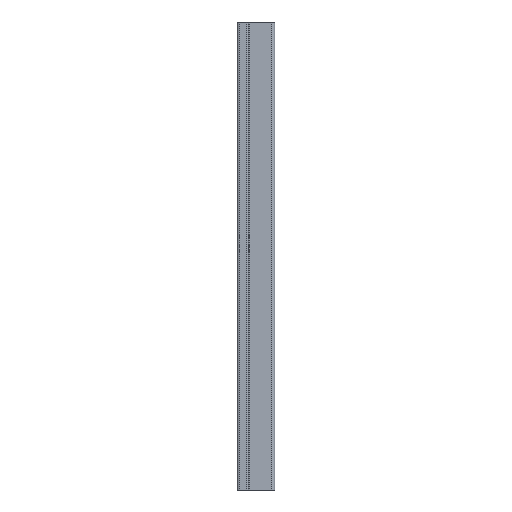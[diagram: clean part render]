
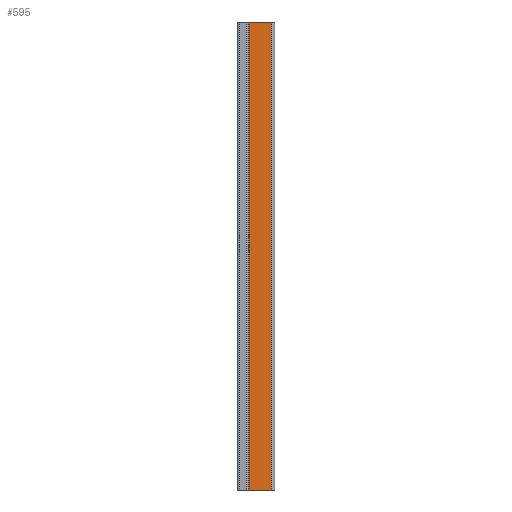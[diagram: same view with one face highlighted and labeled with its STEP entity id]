
A CAD part, front view. The second image highlights one B-rep face of the part: STEP entity #595.
In plain terms, the highlighted planar face has unit normal (0, -1, 0).
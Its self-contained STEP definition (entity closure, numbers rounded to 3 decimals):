
#14 = VECTOR ( 'NONE', #1184, 1000. ) ;
#33 = EDGE_CURVE ( 'NONE', #837, #997, #1414, .T. ) ;
#165 = DIRECTION ( 'NONE',  ( 0., 0., 1. ) ) ;
#167 = EDGE_CURVE ( 'NONE', #481, #997, #1305, .T. ) ;
#201 = ORIENTED_EDGE ( 'NONE', *, *, #1371, .T. ) ;
#217 = LINE ( 'NONE', #1024, #1322 ) ;
#228 = AXIS2_PLACEMENT_3D ( 'NONE', #782, #1230, #561 ) ;
#258 = ORIENTED_EDGE ( 'NONE', *, *, #33, .T. ) ;
#301 = CARTESIAN_POINT ( 'NONE',  ( -25., -15., -250. ) ) ;
#324 = FACE_OUTER_BOUND ( 'NONE', #458, .T. ) ;
#351 = VECTOR ( 'NONE', #1179, 1000. ) ;
#371 = CARTESIAN_POINT ( 'NONE',  ( 12., -15., 250. ) ) ;
#458 = EDGE_LOOP ( 'NONE', ( #201, #258, #508, #851 ) ) ;
#481 = VERTEX_POINT ( 'NONE', #969 ) ;
#508 = ORIENTED_EDGE ( 'NONE', *, *, #167, .F. ) ;
#561 = DIRECTION ( 'NONE',  ( 0., 0., 1. ) ) ;
#595 = ADVANCED_FACE ( 'NONE', ( #324 ), #1119, .F. ) ;
#657 = CARTESIAN_POINT ( 'NONE',  ( 12., -15., 250. ) ) ;
#736 = CARTESIAN_POINT ( 'NONE',  ( -25., -15., 250. ) ) ;
#741 = VERTEX_POINT ( 'NONE', #1268 ) ;
#782 = CARTESIAN_POINT ( 'NONE',  ( -25., -15., 250. ) ) ;
#837 = VERTEX_POINT ( 'NONE', #1054 ) ;
#851 = ORIENTED_EDGE ( 'NONE', *, *, #1071, .T. ) ;
#969 = CARTESIAN_POINT ( 'NONE',  ( -11.95, -15., 250. ) ) ;
#997 = VERTEX_POINT ( 'NONE', #657 ) ;
#1024 = CARTESIAN_POINT ( 'NONE',  ( -11.95, -15., 250. ) ) ;
#1054 = CARTESIAN_POINT ( 'NONE',  ( 12., -15., -250. ) ) ;
#1071 = EDGE_CURVE ( 'NONE', #481, #741, #217, .T. ) ;
#1119 = PLANE ( 'NONE',  #228 ) ;
#1179 = DIRECTION ( 'NONE',  ( 1., 0., 0. ) ) ;
#1184 = DIRECTION ( 'NONE',  ( 1., 0., 0. ) ) ;
#1221 = DIRECTION ( 'NONE',  ( 0., 0., -1. ) ) ;
#1230 = DIRECTION ( 'NONE',  ( 0., 1., 0. ) ) ;
#1268 = CARTESIAN_POINT ( 'NONE',  ( -11.95, -15., -250. ) ) ;
#1299 = LINE ( 'NONE', #301, #351 ) ;
#1305 = LINE ( 'NONE', #736, #14 ) ;
#1322 = VECTOR ( 'NONE', #1221, 1000. ) ;
#1365 = VECTOR ( 'NONE', #165, 1000. ) ;
#1371 = EDGE_CURVE ( 'NONE', #741, #837, #1299, .T. ) ;
#1414 = LINE ( 'NONE', #371, #1365 ) ;
